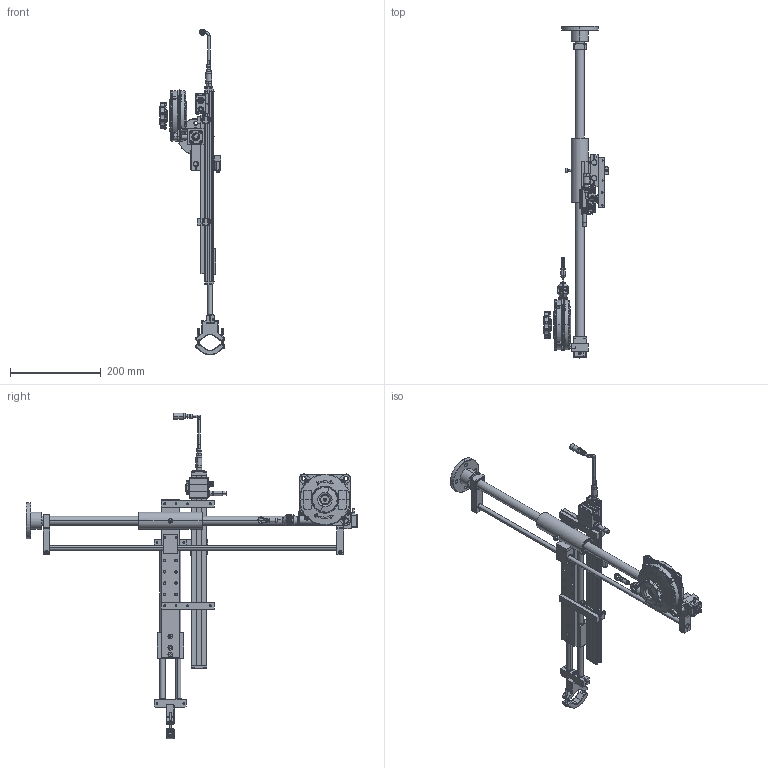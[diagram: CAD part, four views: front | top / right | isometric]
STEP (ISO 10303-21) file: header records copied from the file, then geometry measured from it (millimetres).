
FILE_DESCRIPTION (( 'STEP AP214' ), '1' );
FILE_NAME ('LINAR2-TLS1 010682-TLS1.STEP', '2022-07-27T15:02:58', ( '' ), ( '' ), 'SwSTEP 2.0', 'SolidWorks 2021', '' );
FILE_SCHEMA (( 'AUTOMOTIVE_DESIGN' ));
Length unit declared in the file: millimetre
Products named in the file (1): LINAR2-TLS1 010682-TLS1
Bounding box: 143.08 x 732.2 x 717.93 mm (x, y, z)
Surface area: 391030.8 mm2 (no closed solid volume)
Topology: 0 solids, 217 shells, 1864 faces, 6716 edges, 4895 vertices
Faces by surface type: plane 685, cylinder 522, cone 248, torus 235, bspline 138, sphere 36
Entity records: 109472 total; most frequent: CARTESIAN_POINT 33428, DIRECTION 11765, ORIENTED_EDGE 10064, EDGE_CURVE 6689, VERTEX_POINT 4893, AXIS2_PLACEMENT_3D 4533, CIRCLE 2806, VECTOR 2699
